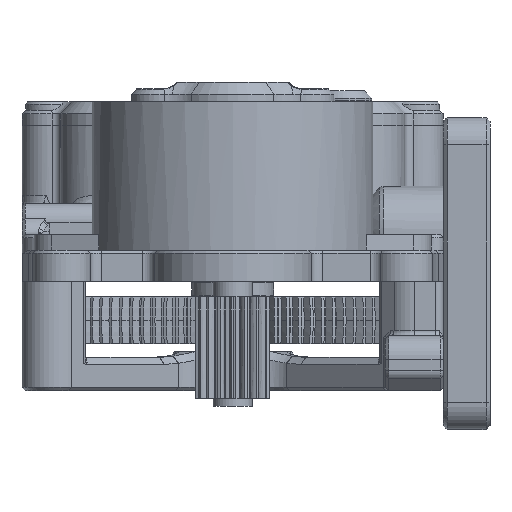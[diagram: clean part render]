
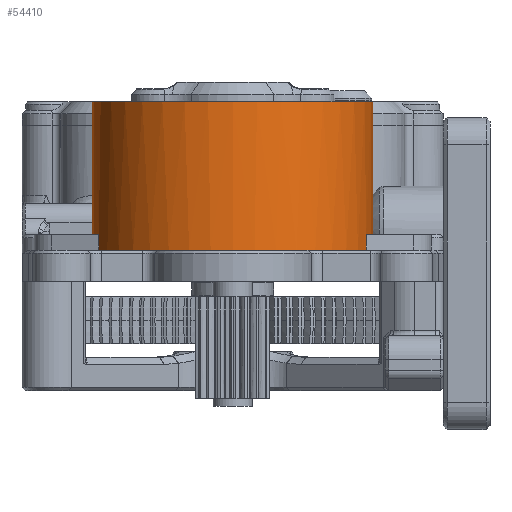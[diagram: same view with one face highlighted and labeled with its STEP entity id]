
A CAD part, left-side view. The second image highlights one B-rep face of the part: STEP entity #54410.
In plain terms, the highlighted cylindrical face has radius 18 mm (diameter 36 mm), a full revolution.
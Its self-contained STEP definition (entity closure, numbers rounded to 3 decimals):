
#4845=CYLINDRICAL_SURFACE('',#60153,18.);
#7843=LINE('',#191602,#10850);
#7845=LINE('',#191607,#10852);
#7849=LINE('',#191616,#10856);
#7850=LINE('',#191619,#10857);
#7851=LINE('',#191622,#10858);
#10850=VECTOR('',#74278,10.);
#10852=VECTOR('',#74282,10.);
#10856=VECTOR('',#74292,10.);
#10857=VECTOR('',#74295,18.);
#10858=VECTOR('',#74298,10.);
#14481=FACE_OUTER_BOUND('',#17754,.T.);
#17754=EDGE_LOOP('',(#51056,#51057,#51058,#51059,#51060,#51061,#51062,#51063,
#51064,#51065,#51066,#51067));
#20946=CIRCLE('',#60131,18.);
#20947=CIRCLE('',#60133,18.);
#20950=CIRCLE('',#60137,18.);
#20958=CIRCLE('',#60154,18.);
#20959=CIRCLE('',#60155,18.);
#20960=CIRCLE('',#60156,18.);
#26161=VERTEX_POINT('',#191558);
#26162=VERTEX_POINT('',#191561);
#26163=VERTEX_POINT('',#191562);
#26167=VERTEX_POINT('',#191572);
#26168=VERTEX_POINT('',#191573);
#26177=VERTEX_POINT('',#191599);
#26179=VERTEX_POINT('',#191605);
#26181=VERTEX_POINT('',#191614);
#26182=VERTEX_POINT('',#191618);
#26183=VERTEX_POINT('',#191621);
#34450=EDGE_CURVE('',#26161,#26161,#20946,.T.);
#34451=EDGE_CURVE('',#26162,#26163,#20947,.T.);
#34456=EDGE_CURVE('',#26167,#26168,#20950,.T.);
#34470=EDGE_CURVE('',#26177,#26168,#7843,.T.);
#34472=EDGE_CURVE('',#26179,#26162,#7845,.T.);
#34477=EDGE_CURVE('',#26181,#26163,#7849,.T.);
#34478=EDGE_CURVE('',#26161,#26182,#7850,.T.);
#34479=EDGE_CURVE('',#26182,#26177,#20958,.T.);
#34480=EDGE_CURVE('',#26183,#26167,#7851,.T.);
#34481=EDGE_CURVE('',#26183,#26181,#20959,.T.);
#34482=EDGE_CURVE('',#26179,#26182,#20960,.T.);
#51056=ORIENTED_EDGE('',*,*,#34450,.F.);
#51057=ORIENTED_EDGE('',*,*,#34478,.T.);
#51058=ORIENTED_EDGE('',*,*,#34479,.T.);
#51059=ORIENTED_EDGE('',*,*,#34470,.T.);
#51060=ORIENTED_EDGE('',*,*,#34456,.F.);
#51061=ORIENTED_EDGE('',*,*,#34480,.F.);
#51062=ORIENTED_EDGE('',*,*,#34481,.T.);
#51063=ORIENTED_EDGE('',*,*,#34477,.T.);
#51064=ORIENTED_EDGE('',*,*,#34451,.F.);
#51065=ORIENTED_EDGE('',*,*,#34472,.F.);
#51066=ORIENTED_EDGE('',*,*,#34482,.T.);
#51067=ORIENTED_EDGE('',*,*,#34478,.F.);
#54410=ADVANCED_FACE('',(#14481),#4845,.T.);
#60131=AXIS2_PLACEMENT_3D('',#191559,#74233,#74234);
#60133=AXIS2_PLACEMENT_3D('',#191563,#74237,#74238);
#60137=AXIS2_PLACEMENT_3D('',#191574,#74247,#74248);
#60153=AXIS2_PLACEMENT_3D('',#191617,#74293,#74294);
#60154=AXIS2_PLACEMENT_3D('',#191620,#74296,#74297);
#60155=AXIS2_PLACEMENT_3D('',#191623,#74299,#74300);
#60156=AXIS2_PLACEMENT_3D('',#191624,#74301,#74302);
#74233=DIRECTION('center_axis',(0.,0.,1.));
#74234=DIRECTION('ref_axis',(1.,0.,0.));
#74237=DIRECTION('center_axis',(0.,0.,-1.));
#74238=DIRECTION('ref_axis',(1.,0.,0.));
#74247=DIRECTION('center_axis',(0.,0.,-1.));
#74248=DIRECTION('ref_axis',(1.,0.,0.));
#74278=DIRECTION('',(0.,0.,1.));
#74282=DIRECTION('',(0.,0.,1.));
#74292=DIRECTION('',(0.,0.,1.));
#74293=DIRECTION('center_axis',(0.,0.,1.));
#74294=DIRECTION('ref_axis',(1.,0.,0.));
#74295=DIRECTION('',(0.,0.,-1.));
#74296=DIRECTION('center_axis',(0.,0.,1.));
#74297=DIRECTION('ref_axis',(1.,0.,0.));
#74298=DIRECTION('',(0.,0.,1.));
#74299=DIRECTION('center_axis',(0.,0.,1.));
#74300=DIRECTION('ref_axis',(1.,0.,0.));
#74301=DIRECTION('center_axis',(0.,0.,1.));
#74302=DIRECTION('ref_axis',(1.,0.,0.));
#191558=CARTESIAN_POINT('',(-43.425,1.95,33.));
#191559=CARTESIAN_POINT('Origin',(-25.425,1.95,33.));
#191561=CARTESIAN_POINT('',(-30.925,19.089,16.));
#191562=CARTESIAN_POINT('',(-19.925,19.089,16.));
#191563=CARTESIAN_POINT('Origin',(-25.425,1.95,16.));
#191572=CARTESIAN_POINT('',(-19.925,-15.189,16.));
#191573=CARTESIAN_POINT('',(-30.925,-15.189,16.));
#191574=CARTESIAN_POINT('Origin',(-25.425,1.95,16.));
#191599=CARTESIAN_POINT('',(-30.925,-15.189,14.));
#191602=CARTESIAN_POINT('',(-30.925,-15.189,14.));
#191605=CARTESIAN_POINT('',(-30.925,19.089,14.));
#191607=CARTESIAN_POINT('',(-30.925,19.089,14.));
#191614=CARTESIAN_POINT('',(-19.925,19.089,14.));
#191616=CARTESIAN_POINT('',(-19.925,19.089,14.));
#191617=CARTESIAN_POINT('Origin',(-25.425,1.95,14.));
#191618=CARTESIAN_POINT('',(-43.425,1.95,14.));
#191619=CARTESIAN_POINT('',(-43.425,1.95,14.));
#191620=CARTESIAN_POINT('Origin',(-25.425,1.95,14.));
#191621=CARTESIAN_POINT('',(-19.925,-15.189,14.));
#191622=CARTESIAN_POINT('',(-19.925,-15.189,14.));
#191623=CARTESIAN_POINT('Origin',(-25.425,1.95,14.));
#191624=CARTESIAN_POINT('Origin',(-25.425,1.95,14.));
